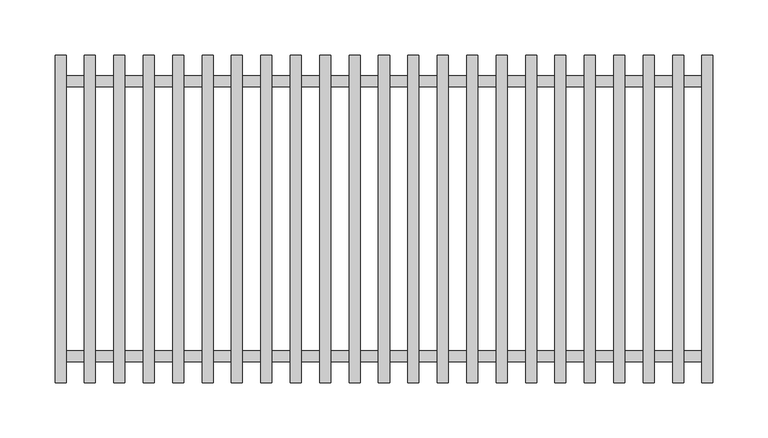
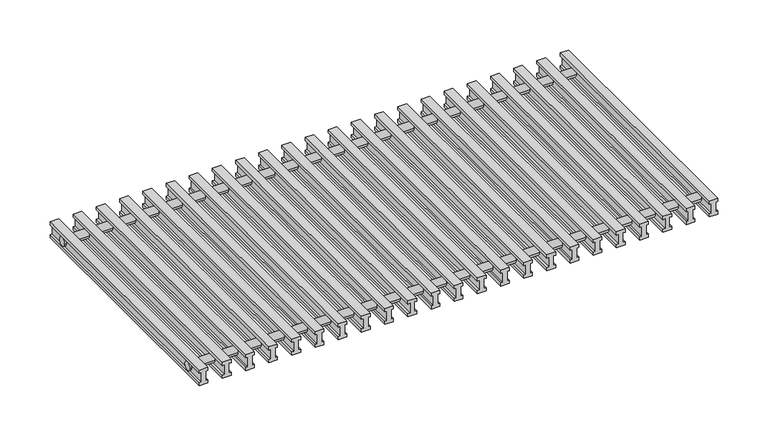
"""IFC4 building model written with IfcOpenShell, lengths in millimetres: proxy geometry, ♦ : РРД_Рулонная деревянная/ Светлое дерево."""

from ifc_helpers import new_model, si_unit, point, frame, frame_2d, origin, place, context, project, spatial, polyline, circle_curve, trimmed, segment, composite_curve, outline, extrude, source, transform, mapped, element, save


def mechanical_equipment_841a4795(model_context):
    return source(origin(), model_context, "Body", "SweptSolid", [
        extrude(outline(polyline([(0.0, 572.0909091), (0.0, 562.0909091), (-3.86, 562.0909091), (-3.86, 564.5909091), (-15.44, 564.5909091), (-15.44, 562.0909091), (-19.3, 562.0909091), (-19.3, 572.0909091), (-15.44, 572.0909091), (-15.44, 569.5909091), (-3.86, 569.5909091), (-3.86, 572.0909091), (0.0, 572.0909091)])), frame((0.0, -148.8, 0.0), z_axis=(0.0, 1.0, 0.0), x_axis=(0.0, 0.0, 1.0)), (0.0, 0.0, 1.0), 297.6),
        extrude(outline(polyline([(0.0, 545.3818182), (0.0, 535.3818182), (-3.86, 535.3818182), (-3.86, 537.8818182), (-15.44, 537.8818182), (-15.44, 535.3818182), (-19.3, 535.3818182), (-19.3, 545.3818182), (-15.44, 545.3818182), (-15.44, 542.8818182), (-3.86, 542.8818182), (-3.86, 545.3818182), (0.0, 545.3818182)])), frame((0.0, -148.8, 0.0), z_axis=(0.0, 1.0, 0.0), x_axis=(0.0, 0.0, 1.0)), (0.0, 0.0, 1.0), 297.6),
        extrude(outline(polyline([(0.0, 518.6727273), (0.0, 508.6727273), (-3.86, 508.6727273), (-3.86, 511.1727273), (-15.44, 511.1727273), (-15.44, 508.6727273), (-19.3, 508.6727273), (-19.3, 518.6727273), (-15.44, 518.6727273), (-15.44, 516.1727273), (-3.86, 516.1727273), (-3.86, 518.6727273), (0.0, 518.6727273)])), frame((0.0, -148.8, 0.0), z_axis=(0.0, 1.0, 0.0), x_axis=(0.0, 0.0, 1.0)), (0.0, 0.0, 1.0), 297.6),
        extrude(outline(polyline([(0.0, 491.9636364), (0.0, 481.9636364), (-3.86, 481.9636364), (-3.86, 484.4636364), (-15.44, 484.4636364), (-15.44, 481.9636364), (-19.3, 481.9636364), (-19.3, 491.9636364), (-15.44, 491.9636364), (-15.44, 489.4636364), (-3.86, 489.4636364), (-3.86, 491.9636364), (0.0, 491.9636364)])), frame((0.0, -148.8, 0.0), z_axis=(0.0, 1.0, 0.0), x_axis=(0.0, 0.0, 1.0)), (0.0, 0.0, 1.0), 297.6),
        extrude(outline(polyline([(0.0, 465.2545455), (0.0, 455.2545455), (-3.86, 455.2545455), (-3.86, 457.7545455), (-15.44, 457.7545455), (-15.44, 455.2545455), (-19.3, 455.2545455), (-19.3, 465.2545455), (-15.44, 465.2545455), (-15.44, 462.7545455), (-3.86, 462.7545455), (-3.86, 465.2545455), (0.0, 465.2545455)])), frame((0.0, -148.8, 0.0), z_axis=(0.0, 1.0, 0.0), x_axis=(0.0, 0.0, 1.0)), (0.0, 0.0, 1.0), 297.6),
        extrude(outline(polyline([(0.0, 438.5454545), (0.0, 428.5454545), (-3.86, 428.5454545), (-3.86, 431.0454545), (-15.44, 431.0454545), (-15.44, 428.5454545), (-19.3, 428.5454545), (-19.3, 438.5454545), (-15.44, 438.5454545), (-15.44, 436.0454545), (-3.86, 436.0454545), (-3.86, 438.5454545), (0.0, 438.5454545)])), frame((0.0, -148.8, 0.0), z_axis=(0.0, 1.0, 0.0), x_axis=(0.0, 0.0, 1.0)), (0.0, 0.0, 1.0), 297.6),
        extrude(outline(polyline([(0.0, 411.8363636), (0.0, 401.8363636), (-3.86, 401.8363636), (-3.86, 404.3363636), (-15.44, 404.3363636), (-15.44, 401.8363636), (-19.3, 401.8363636), (-19.3, 411.8363636), (-15.44, 411.8363636), (-15.44, 409.3363636), (-3.86, 409.3363636), (-3.86, 411.8363636), (0.0, 411.8363636)])), frame((0.0, -148.8, 0.0), z_axis=(0.0, 1.0, 0.0), x_axis=(0.0, 0.0, 1.0)), (0.0, 0.0, 1.0), 297.6),
        extrude(outline(polyline([(0.0, 385.1272727), (0.0, 375.1272727), (-3.86, 375.1272727), (-3.86, 377.6272727), (-15.44, 377.6272727), (-15.44, 375.1272727), (-19.3, 375.1272727), (-19.3, 385.1272727), (-15.44, 385.1272727), (-15.44, 382.6272727), (-3.86, 382.6272727), (-3.86, 385.1272727), (0.0, 385.1272727)])), frame((0.0, -148.8, 0.0), z_axis=(0.0, 1.0, 0.0), x_axis=(0.0, 0.0, 1.0)), (0.0, 0.0, 1.0), 297.6),
        extrude(outline(polyline([(0.0, 358.4181818), (0.0, 348.4181818), (-3.86, 348.4181818), (-3.86, 350.9181818), (-15.44, 350.9181818), (-15.44, 348.4181818), (-19.3, 348.4181818), (-19.3, 358.4181818), (-15.44, 358.4181818), (-15.44, 355.9181818), (-3.86, 355.9181818), (-3.86, 358.4181818), (0.0, 358.4181818)])), frame((0.0, -148.8, 0.0), z_axis=(0.0, 1.0, 0.0), x_axis=(0.0, 0.0, 1.0)), (0.0, 0.0, 1.0), 297.6),
        extrude(outline(polyline([(0.0, 331.7090909), (0.0, 321.7090909), (-3.86, 321.7090909), (-3.86, 324.2090909), (-15.44, 324.2090909), (-15.44, 321.7090909), (-19.3, 321.7090909), (-19.3, 331.7090909), (-15.44, 331.7090909), (-15.44, 329.2090909), (-3.86, 329.2090909), (-3.86, 331.7090909), (0.0, 331.7090909)])), frame((0.0, -148.8, 0.0), z_axis=(0.0, 1.0, 0.0), x_axis=(0.0, 0.0, 1.0)), (0.0, 0.0, 1.0), 297.6),
        extrude(outline(polyline([(0.0, 305.0), (0.0, 295.0), (-3.86, 295.0), (-3.86, 297.5), (-15.44, 297.5), (-15.44, 295.0), (-19.3, 295.0), (-19.3, 305.0), (-15.44, 305.0), (-15.44, 302.5), (-3.86, 302.5), (-3.86, 305.0), (0.0, 305.0)])), frame((0.0, -148.8, 0.0), z_axis=(0.0, 1.0, 0.0), x_axis=(0.0, 0.0, 1.0)), (0.0, 0.0, 1.0), 297.6),
        extrude(outline(polyline([(0.0, 278.2909091), (0.0, 268.2909091), (-3.86, 268.2909091), (-3.86, 270.7909091), (-15.44, 270.7909091), (-15.44, 268.2909091), (-19.3, 268.2909091), (-19.3, 278.2909091), (-15.44, 278.2909091), (-15.44, 275.7909091), (-3.86, 275.7909091), (-3.86, 278.2909091), (0.0, 278.2909091)])), frame((0.0, -148.8, 0.0), z_axis=(0.0, 1.0, 0.0), x_axis=(0.0, 0.0, 1.0)), (0.0, 0.0, 1.0), 297.6),
        extrude(outline(polyline([(0.0, 251.5818182), (0.0, 241.5818182), (-3.86, 241.5818182), (-3.86, 244.0818182), (-15.44, 244.0818182), (-15.44, 241.5818182), (-19.3, 241.5818182), (-19.3, 251.5818182), (-15.44, 251.5818182), (-15.44, 249.0818182), (-3.86, 249.0818182), (-3.86, 251.5818182), (0.0, 251.5818182)])), frame((0.0, -148.8, 0.0), z_axis=(0.0, 1.0, 0.0), x_axis=(0.0, 0.0, 1.0)), (0.0, 0.0, 1.0), 297.6),
        extrude(outline(polyline([(0.0, 224.8727273), (0.0, 214.8727273), (-3.86, 214.8727273), (-3.86, 217.3727273), (-15.44, 217.3727273), (-15.44, 214.8727273), (-19.3, 214.8727273), (-19.3, 224.8727273), (-15.44, 224.8727273), (-15.44, 222.3727273), (-3.86, 222.3727273), (-3.86, 224.8727273), (0.0, 224.8727273)])), frame((0.0, -148.8, 0.0), z_axis=(0.0, 1.0, 0.0), x_axis=(0.0, 0.0, 1.0)), (0.0, 0.0, 1.0), 297.6),
        extrude(outline(polyline([(0.0, 198.1636364), (0.0, 188.1636364), (-3.86, 188.1636364), (-3.86, 190.6636364), (-15.44, 190.6636364), (-15.44, 188.1636364), (-19.3, 188.1636364), (-19.3, 198.1636364), (-15.44, 198.1636364), (-15.44, 195.6636364), (-3.86, 195.6636364), (-3.86, 198.1636364), (0.0, 198.1636364)])), frame((0.0, -148.8, 0.0), z_axis=(0.0, 1.0, 0.0), x_axis=(0.0, 0.0, 1.0)), (0.0, 0.0, 1.0), 297.6),
        extrude(outline(polyline([(0.0, 171.4545455), (0.0, 161.4545455), (-3.86, 161.4545455), (-3.86, 163.9545455), (-15.44, 163.9545455), (-15.44, 161.4545455), (-19.3, 161.4545455), (-19.3, 171.4545455), (-15.44, 171.4545455), (-15.44, 168.9545455), (-3.86, 168.9545455), (-3.86, 171.4545455), (0.0, 171.4545455)])), frame((0.0, -148.8, 0.0), z_axis=(0.0, 1.0, 0.0), x_axis=(0.0, 0.0, 1.0)), (0.0, 0.0, 1.0), 297.6),
        extrude(outline(polyline([(0.0, 144.7454545), (0.0, 134.7454545), (-3.86, 134.7454545), (-3.86, 137.2454545), (-15.44, 137.2454545), (-15.44, 134.7454545), (-19.3, 134.7454545), (-19.3, 144.7454545), (-15.44, 144.7454545), (-15.44, 142.2454545), (-3.86, 142.2454545), (-3.86, 144.7454545), (0.0, 144.7454545)])), frame((0.0, -148.8, 0.0), z_axis=(0.0, 1.0, 0.0), x_axis=(0.0, 0.0, 1.0)), (0.0, 0.0, 1.0), 297.6),
        extrude(outline(polyline([(0.0, 118.0363636), (0.0, 108.0363636), (-3.86, 108.0363636), (-3.86, 110.5363636), (-15.44, 110.5363636), (-15.44, 108.0363636), (-19.3, 108.0363636), (-19.3, 118.0363636), (-15.44, 118.0363636), (-15.44, 115.5363636), (-3.86, 115.5363636), (-3.86, 118.0363636), (0.0, 118.0363636)])), frame((0.0, -148.8, 0.0), z_axis=(0.0, 1.0, 0.0), x_axis=(0.0, 0.0, 1.0)), (0.0, 0.0, 1.0), 297.6),
        extrude(outline(polyline([(0.0, 91.3272727), (0.0, 81.3272727), (-3.86, 81.3272727), (-3.86, 83.8272727), (-15.44, 83.8272727), (-15.44, 81.3272727), (-19.3, 81.3272727), (-19.3, 91.3272727), (-15.44, 91.3272727), (-15.44, 88.8272727), (-3.86, 88.8272727), (-3.86, 91.3272727), (0.0, 91.3272727)])), frame((0.0, -148.8, 0.0), z_axis=(0.0, 1.0, 0.0), x_axis=(0.0, 0.0, 1.0)), (0.0, 0.0, 1.0), 297.6),
        extrude(outline(polyline([(0.0, 64.6181818), (0.0, 54.6181818), (-3.86, 54.6181818), (-3.86, 57.1181818), (-15.44, 57.1181818), (-15.44, 54.6181818), (-19.3, 54.6181818), (-19.3, 64.6181818), (-15.44, 64.6181818), (-15.44, 62.1181818), (-3.86, 62.1181818), (-3.86, 64.6181818), (0.0, 64.6181818)])), frame((0.0, -148.8, 0.0), z_axis=(0.0, 1.0, 0.0), x_axis=(0.0, 0.0, 1.0)), (0.0, 0.0, 1.0), 297.6),
        extrude(outline(polyline([(0.0, 37.9090909), (0.0, 27.9090909), (-3.86, 27.9090909), (-3.86, 30.4090909), (-15.44, 30.4090909), (-15.44, 27.9090909), (-19.3, 27.9090909), (-19.3, 37.9090909), (-15.44, 37.9090909), (-15.44, 35.4090909), (-3.86, 35.4090909), (-3.86, 37.9090909), (0.0, 37.9090909)])), frame((0.0, -148.8, 0.0), z_axis=(0.0, 1.0, 0.0), x_axis=(0.0, 0.0, 1.0)), (0.0, 0.0, 1.0), 297.6),
        extrude(outline(polyline([(0.0, 598.8), (0.0, 588.8), (-3.86, 588.8), (-3.86, 591.3), (-15.44, 591.3), (-15.44, 588.8), (-19.3, 588.8), (-19.3, 598.8), (-15.44, 598.8), (-15.44, 596.3), (-3.86, 596.3), (-3.86, 598.8), (0.0, 598.8)])), frame((0.0, -148.8, 0.0), z_axis=(0.0, 1.0, 0.0), x_axis=(0.0, 0.0, 1.0)), (0.0, 0.0, 1.0), 297.6),
        extrude(outline(polyline([(0.0, 11.2), (0.0, 1.2), (-3.86, 1.2), (-3.86, 3.7), (-15.44, 3.7), (-15.44, 1.2), (-19.3, 1.2), (-19.3, 11.2), (-15.44, 11.2), (-15.44, 8.7), (-3.86, 8.7), (-3.86, 11.2), (0.0, 11.2)])), frame((0.0, -148.8, 0.0), z_axis=(0.0, 1.0, 0.0), x_axis=(0.0, 0.0, 1.0)), (0.0, 0.0, 1.0), 297.6),
        extrude(outline(composite_curve([segment(trimmed(circle_curve(frame_2d((125.0, -9.64)), 5.0), [point((120.0, -9.64))], [point((130.0, -9.64))], False, "CARTESIAN"), True, "CONTINUOUS"), segment(trimmed(circle_curve(frame_2d((125.0, -9.64)), 5.0), [point((130.0, -9.64))], [point((120.0, -9.64))], False, "CARTESIAN"), True, "CONTINUOUS")], self_intersect=False)), frame((1.2, 0.0, 0.0), z_axis=(1.0, 0.0, 0.0), x_axis=(0.0, 1.0, 0.0)), (0.0, 0.0, 1.0), 597.6),
        extrude(outline(composite_curve([segment(trimmed(circle_curve(frame_2d((-125.0, -9.64)), 5.0), [point((-130.0, -9.64))], [point((-120.0, -9.64))], False, "CARTESIAN"), True, "CONTINUOUS"), segment(trimmed(circle_curve(frame_2d((-125.0, -9.64)), 5.0), [point((-120.0, -9.64))], [point((-130.0, -9.64))], False, "CARTESIAN"), True, "CONTINUOUS")], self_intersect=False)), frame((1.2, 0.0, 0.0), z_axis=(1.0, 0.0, 0.0), x_axis=(0.0, 1.0, 0.0)), (0.0, 0.0, 1.0), 597.6),
    ])


if __name__ == "__main__":
    model = new_model("IFC4")
    model_context = context("Model", 3, world=origin())
    ifc_project = project(units=[si_unit("LENGTHUNIT", "METRE", prefix="MILLI")], contexts=[model_context])
    site = spatial("IfcSite", under=ifc_project)
    building = spatial("IfcBuilding", under=site)
    placement = place(None, origin())
    mechanical_equipment_shape = mechanical_equipment_841a4795(model_context)
    element("IfcBuildingElementProxy", 1, Name="♦ : РРД_Рулонная деревянная/ Светлое дерево", ObjectType="♦ : РРД_Рулонная деревянная/ Светлое дерево", at=placement, inside=building, context=model_context, shape_type="MappedRepresentation", body=[
        mapped(mechanical_equipment_shape, transform((0.0, 0.0, 0.0), x_axis=(1.0, 0.0, 0.0), y_axis=(0.0, 1.0, 0.0), z_axis=(0.0, 0.0, 1.0))),
    ])
    save(model, "model.ifc")
